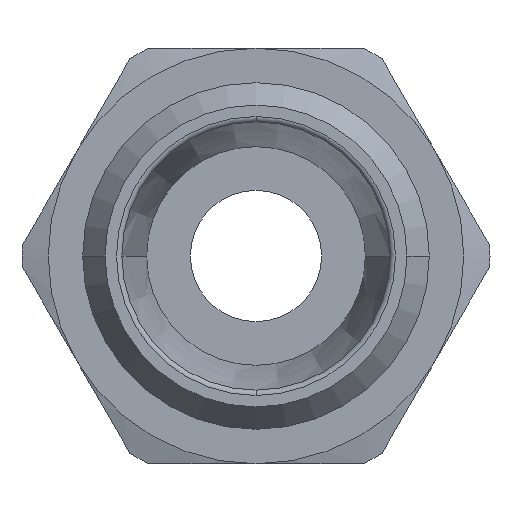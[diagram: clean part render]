
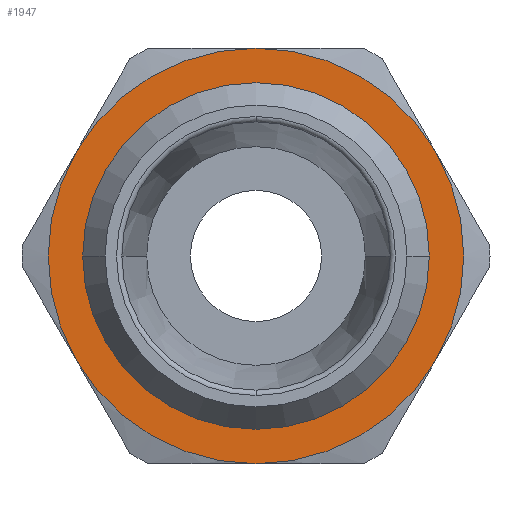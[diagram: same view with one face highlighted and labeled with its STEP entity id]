
A CAD part, left-side view. The second image highlights one B-rep face of the part: STEP entity #1947.
In plain terms, the highlighted planar face has unit normal (-1, 0, 0) as drawn and (0, 0, 1) by its records, which use the part's own axes.
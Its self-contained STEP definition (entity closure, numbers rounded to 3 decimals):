
#857=CARTESIAN_POINT('',(-7.8,0.,2.5));
#858=VERTEX_POINT('',#857);
#884=CARTESIAN_POINT('',(7.8,0.,2.5));
#885=VERTEX_POINT('',#884);
#893=CARTESIAN_POINT('',(0.,0.0,2.5));
#894=DIRECTION('',(0.0,0.0,1.0));
#895=DIRECTION('',(-1.0,0.0,0.0));
#896=AXIS2_PLACEMENT_3D('',#893,#894,#895);
#897=CIRCLE('',#896,7.8);
#898=EDGE_CURVE('',#885,#858,#897,.T.);
#1827=CARTESIAN_POINT('',(0.,-7.8,2.5));
#1828=VERTEX_POINT('',#1827);
#1829=CARTESIAN_POINT('',(0.,0.0,2.5));
#1830=DIRECTION('',(0.0,0.0,1.0));
#1831=DIRECTION('',(-1.0,0.0,0.0));
#1832=AXIS2_PLACEMENT_3D('',#1829,#1830,#1831);
#1833=CIRCLE('',#1832,7.8);
#1834=EDGE_CURVE('',#858,#1828,#1833,.T.);
#1836=CARTESIAN_POINT('',(0.,0.0,2.5));
#1837=DIRECTION('',(0.0,0.0,1.0));
#1838=DIRECTION('',(-1.0,0.0,0.0));
#1839=AXIS2_PLACEMENT_3D('',#1836,#1837,#1838);
#1840=CIRCLE('',#1839,7.8);
#1841=EDGE_CURVE('',#1828,#885,#1840,.T.);
#1881=CARTESIAN_POINT('',(0.,0.,2.5));
#1882=DIRECTION('',(0.0,0.0,1.0));
#1883=DIRECTION('',(1.0,0.0,0.0));
#1884=AXIS2_PLACEMENT_3D('',#1881,#1882,#1883);
#1885=PLANE('',#1884);
#1886=CARTESIAN_POINT('',(4.75,-8.227,2.5));
#1887=VERTEX_POINT('',#1886);
#1888=CARTESIAN_POINT('',(9.5,0.0,2.5));
#1889=VERTEX_POINT('',#1888);
#1890=CARTESIAN_POINT('',(0.,0.0,2.5));
#1891=DIRECTION('',(0.0,0.0,1.0));
#1892=DIRECTION('',(1.0,0.0,0.0));
#1893=AXIS2_PLACEMENT_3D('',#1890,#1891,#1892);
#1894=CIRCLE('',#1893,9.5);
#1895=EDGE_CURVE('',#1887,#1889,#1894,.T.);
#1896=ORIENTED_EDGE('',*,*,#1895,.T.);
#1897=CARTESIAN_POINT('',(4.75,8.227,2.5));
#1898=VERTEX_POINT('',#1897);
#1899=CARTESIAN_POINT('',(0.,0.0,2.5));
#1900=DIRECTION('',(0.0,0.0,1.0));
#1901=DIRECTION('',(1.0,0.0,0.0));
#1902=AXIS2_PLACEMENT_3D('',#1899,#1900,#1901);
#1903=CIRCLE('',#1902,9.5);
#1904=EDGE_CURVE('',#1889,#1898,#1903,.T.);
#1905=ORIENTED_EDGE('',*,*,#1904,.T.);
#1906=CARTESIAN_POINT('',(-4.75,8.227,2.5));
#1907=VERTEX_POINT('',#1906);
#1908=CARTESIAN_POINT('',(0.,0.0,2.5));
#1909=DIRECTION('',(0.0,0.0,1.0));
#1910=DIRECTION('',(1.0,0.0,0.0));
#1911=AXIS2_PLACEMENT_3D('',#1908,#1909,#1910);
#1912=CIRCLE('',#1911,9.5);
#1913=EDGE_CURVE('',#1898,#1907,#1912,.T.);
#1914=ORIENTED_EDGE('',*,*,#1913,.T.);
#1915=CARTESIAN_POINT('',(-9.5,0.,2.5));
#1916=VERTEX_POINT('',#1915);
#1917=CARTESIAN_POINT('',(0.,0.0,2.5));
#1918=DIRECTION('',(0.0,0.0,1.0));
#1919=DIRECTION('',(1.0,0.0,0.0));
#1920=AXIS2_PLACEMENT_3D('',#1917,#1918,#1919);
#1921=CIRCLE('',#1920,9.5);
#1922=EDGE_CURVE('',#1907,#1916,#1921,.T.);
#1923=ORIENTED_EDGE('',*,*,#1922,.T.);
#1924=CARTESIAN_POINT('',(-4.75,-8.227,2.5));
#1925=VERTEX_POINT('',#1924);
#1926=CARTESIAN_POINT('',(0.,0.0,2.5));
#1927=DIRECTION('',(0.0,0.0,1.0));
#1928=DIRECTION('',(1.0,0.0,0.0));
#1929=AXIS2_PLACEMENT_3D('',#1926,#1927,#1928);
#1930=CIRCLE('',#1929,9.5);
#1931=EDGE_CURVE('',#1916,#1925,#1930,.T.);
#1932=ORIENTED_EDGE('',*,*,#1931,.T.);
#1933=CARTESIAN_POINT('',(0.,0.0,2.5));
#1934=DIRECTION('',(0.0,0.0,1.0));
#1935=DIRECTION('',(1.0,0.0,0.0));
#1936=AXIS2_PLACEMENT_3D('',#1933,#1934,#1935);
#1937=CIRCLE('',#1936,9.5);
#1938=EDGE_CURVE('',#1925,#1887,#1937,.T.);
#1939=ORIENTED_EDGE('',*,*,#1938,.T.);
#1940=EDGE_LOOP('',(#1896,#1905,#1914,#1923,#1932,#1939));
#1941=FACE_OUTER_BOUND('',#1940,.T.);
#1942=ORIENTED_EDGE('',*,*,#1841,.F.);
#1943=ORIENTED_EDGE('',*,*,#1834,.F.);
#1944=ORIENTED_EDGE('',*,*,#898,.F.);
#1945=EDGE_LOOP('',(#1942,#1943,#1944));
#1946=FACE_BOUND('',#1945,.T.);
#1947=ADVANCED_FACE('',(#1941,#1946),#1885,.T.);
